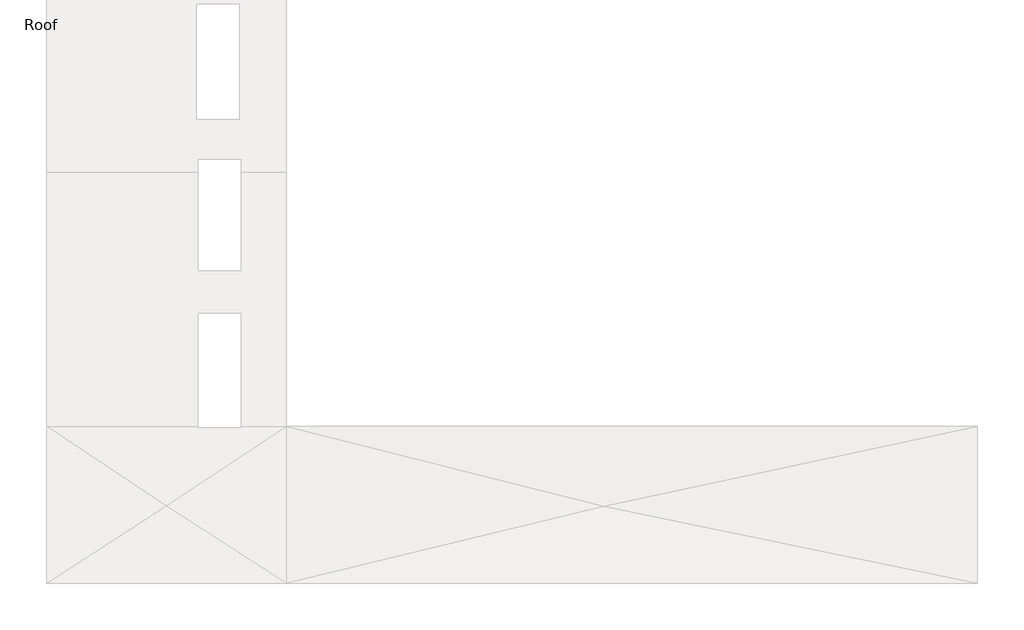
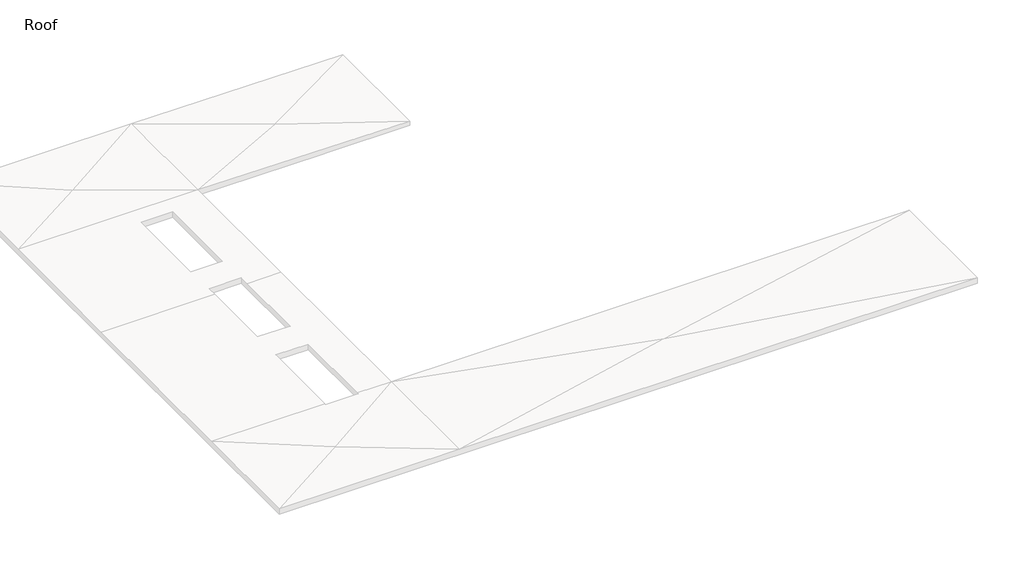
# One storey, part 4 of 7: 16 beams.
"""IFC4 building model written with IfcOpenShell, lengths in millimetres."""

from ifc_helpers import new_model, si_unit, point, frame, frame_2d, origin, place, context, project, spatial, polyline, circle_curve, trimmed, segment, composite_curve, outline, extrude, element, save
from ifc_brep_helpers import plane_surface, revolved_surface, advanced_brep

model = new_model("IFC4")

# Units and contexts
model_context = context("Model", 3, world=origin())
ifc_project = project(units=[si_unit("LENGTHUNIT", "METRE", prefix="MILLI")], contexts=[model_context])

# Site, building, storey
site = spatial("IfcSite", under=ifc_project)
building = spatial("IfcBuilding", under=site)
storey = spatial("IfcBuildingStorey", under=building, Name="Roof", Elevation=11400.0)

# Beams
placement = place(None, origin())
element("IfcBeam", 1, ObjectType="M_Concrete-Rectangular Beam : 400 x 800mm", at=placement, inside=storey, context=model_context, shape_type="AdvancedBrep", body=[
    advanced_brep(
    [(-9401.9994416, 8545.8609793, 10600.0), (-9401.9994416, 6932.0162606, 10600.0), (-9401.9994416, 6932.0162606, 11000.0), (-9401.9994416, 8545.8609793, 11000.0), (-9001.9994416, 6932.0162606, 10600.0), (-9098.921801, 8448.9386199, 10600.0), (-9001.9994416, 8448.9386199, 10600.0), (-9001.9994416, 7028.9386199, 10600.0), (-9001.9994416, 6932.0162606, 11000.0), (-9001.9994416, 8448.9386199, 11000.0), (-9001.9994416, 7028.9386199, 11000.0), (-9098.921801, 8448.9386199, 11000.0)],
    [
        (0, 1),
        (1, 2),
        (2, 3),
        (3, 0),
        (4, 1, circle_curve(frame((-9201.9994416, 6828.9386199, 10600.0), z_axis=(0.0, 0.0, 1.0), x_axis=(-1.0, 0.0, 0.0)), 225.0)),
        (0, 5, circle_curve(frame((-9201.9994416, 8648.9386199, 10600.0), z_axis=(0.0, 0.0, 1.0), x_axis=(1.0, 0.0, 0.0)), 225.0)),
        (5, 6),
        (6, 7),
        (7, 4),
        (8, 4),
        (6, 9),
        (9, 10),
        (10, 8),
        (8, 2, circle_curve(frame((-9201.9994416, 6828.9386199, 11000.0), z_axis=(0.0, 0.0, 1.0), x_axis=(-1.0, 0.0, 0.0)), 225.0)),
        (3, 11, circle_curve(frame((-9201.9994416, 8648.9386199, 11000.0), z_axis=(0.0, 0.0, 1.0), x_axis=(1.0, 0.0, 0.0)), 225.0)),
        (11, 5),
        (9, 11),
    ],
    [
        plane_surface(frame((-9401.9994416, 7066.6386199, 11000.0), z_axis=(-1.0, 0.0, 0.0), x_axis=(0.0, 0.0, -1.0))),
        plane_surface(frame((-9201.9994416, 7066.6386199, 10600.0), z_axis=(0.0, 0.0, -1.0), x_axis=(1.0, 0.0, 0.0))),
        plane_surface(frame((-9001.9994416, 7066.6386199, 11000.0), z_axis=(1.0, 0.0, 0.0), x_axis=(0.0, 0.0, 1.0))),
        revolved_surface(polyline([(-9426.9994416, 6828.9386199, 11000.0), (-9426.9994416, 6828.9386199, 10600.0)]), (-9201.9994416, 6828.9386199, 7600.0), (0.0, 0.0, 1.0)),
        revolved_surface(polyline([(-8976.9994416, 8648.9386199, 11000.0), (-8976.9994416, 8648.9386199, 10600.0)]), (-9201.9994416, 8648.9386199, 7600.0), (0.0, 0.0, 1.0)),
        plane_surface(frame((27511.8999097, 22114.0407562, 11000.0), z_axis=(0.0, 0.0, 1.0), x_axis=(0.0, -1.0, 0.0))),
        plane_surface(frame((-2124.4994416, 8448.9386199, 11400.0), z_axis=(0.0, 1.0, 0.0), x_axis=(-1.0, 0.0, 0.0))),
    ],
    [
        (0, [[1, 2, 3, 4]]),
        (1, [[5, -1, 6, 7, 8, 9]]),
        (2, [[10, -9, -8, 11, 12, 13]]),
        (3, [[-5, -10, 14, -2]]),
        (4, [[-4, 15, 16, -6]]),
        (5, [[-3, -14, -13, -12, 17, -15]]),
        (6, [[-7, -16, -17, -11]]),
    ],
),
])
element("IfcBeam", 2, ObjectType="M_Concrete-Rectangular Beam : 400 x 800mm", at=placement, inside=storey, context=model_context, shape_type="AdvancedBrep", body=[
    advanced_brep(
    [(-9401.9994416, 6725.8609793, 10600.0), (-9401.9994416, 632.8162606, 10600.0), (-9401.9994416, 632.8162606, 11000.0), (-9401.9994416, 6725.8609793, 11000.0), (-9098.921801, 6628.9386199, 10600.0), (-9001.9994416, 6628.9386199, 10600.0), (-9001.9994416, 729.7386199, 10600.0), (-9001.9994416, 632.8162606, 10600.0), (-9001.9994416, 6628.9386199, 11000.0), (-9001.9994416, 729.7386199, 11000.0), (-9001.9994416, 632.8162606, 11000.0), (-9098.921801, 6628.9386199, 11000.0)],
    [
        (0, 1),
        (1, 2),
        (2, 3),
        (3, 0),
        (0, 4, circle_curve(frame((-9201.9994416, 6828.9386199, 10600.0), z_axis=(0.0, 0.0, 1.0), x_axis=(-1.0, 0.0, 0.0)), 225.0)),
        (4, 5),
        (5, 6),
        (6, 7),
        (7, 1, circle_curve(frame((-9201.9994416, 529.7386199, 10600.0), z_axis=(0.0, 0.0, 1.0), x_axis=(-1.0, 0.0, 0.0)), 225.0)),
        (5, 8),
        (8, 9),
        (9, 10),
        (10, 7),
        (3, 11, circle_curve(frame((-9201.9994416, 6828.9386199, 11000.0), z_axis=(0.0, 0.0, 1.0), x_axis=(-1.0, 0.0, 0.0)), 225.0)),
        (11, 4),
        (11, 8),
        (10, 2, circle_curve(frame((-9201.9994416, 529.7386199, 11000.0), z_axis=(0.0, 0.0, 1.0), x_axis=(-1.0, 0.0, 0.0)), 225.0)),
    ],
    [
        plane_surface(frame((-9401.9994416, 767.4386199, 11000.0), z_axis=(-1.0, 0.0, 0.0), x_axis=(0.0, 0.0, -1.0))),
        plane_surface(frame((-9201.9994416, 767.4386199, 10600.0), z_axis=(0.0, 0.0, -1.0), x_axis=(1.0, 0.0, 0.0))),
        plane_surface(frame((-9001.9994416, 767.4386199, 11000.0), z_axis=(1.0, 0.0, 0.0), x_axis=(0.0, 0.0, 1.0))),
        revolved_surface(polyline([(-9426.9994416, 6828.9386199, 11000.0), (-9426.9994416, 6828.9386199, 10600.0)]), (-9201.9994416, 6828.9386199, 7600.0), (0.0, 0.0, 1.0)),
        plane_surface(frame((-8964.2994416, 6628.9386199, 10600.0), z_axis=(0.0, 1.0, 0.0), x_axis=(1.0, 0.0, 0.0))),
        revolved_surface(polyline([(-9426.9994416, 529.7386199, 11000.0), (-9426.9994416, 529.7386199, 10600.0)]), (-9201.9994416, 529.7386199, 7600.0), (0.0, 0.0, 1.0)),
        plane_surface(frame((27511.8999097, 22114.0407562, 11000.0), z_axis=(0.0, 0.0, 1.0), x_axis=(0.0, -1.0, 0.0))),
    ],
    [
        (0, [[1, 2, 3, 4]]),
        (1, [[5, 6, 7, 8, 9, -1]]),
        (2, [[-8, -7, 10, 11, 12, 13]]),
        (3, [[-5, -4, 14, 15]]),
        (4, [[-6, -15, 16, -10]]),
        (5, [[-9, -13, 17, -2]]),
        (6, [[-3, -17, -12, -11, -16, -14]]),
    ],
),
])
element("IfcBeam", 3, ObjectType="M_Concrete-Rectangular Beam : 400 x 800mm", at=placement, inside=storey, context=model_context, shape_type="AdvancedBrep", body=[
    advanced_brep(
    [(32254.0005584, -15422.9390207, 10600.0), (32254.0005584, -15519.8613801, 10600.0), (32254.0005584, -22435.0613801, 10600.0), (32254.0005584, -22531.9837394, 10600.0), (32254.0005584, -22531.9837394, 11000.0), (32254.0005584, -22435.0613801, 11000.0), (32254.0005584, -15519.8613801, 11000.0), (32254.0005584, -15422.9390207, 11000.0), (32654.0005584, -15422.9390207, 10600.0), (32654.0005584, -15519.8613801, 10600.0), (32654.0005584, -22435.0613801, 10600.0), (32654.0005584, -22531.9837394, 10600.0), (32654.0005584, -15422.9390207, 11000.0), (32654.0005584, -15519.8613801, 11000.0), (32654.0005584, -22435.0613801, 11000.0), (32654.0005584, -22531.9837394, 11000.0)],
    [
        (0, 1),
        (1, 2),
        (2, 3),
        (3, 4),
        (4, 5),
        (5, 6),
        (6, 7),
        (7, 0),
        (0, 8, circle_curve(frame((32454.0005584, -15319.8613801, 10600.0), z_axis=(0.0, 0.0, 1.0), x_axis=(-1.0, 0.0, 0.0)), 225.0)),
        (8, 9),
        (9, 10),
        (10, 11),
        (11, 3, circle_curve(frame((32454.0005584, -22635.0613801, 10600.0), z_axis=(0.0, 0.0, 1.0), x_axis=(-1.0, 0.0, 0.0)), 225.0)),
        (8, 12),
        (12, 13),
        (13, 14),
        (14, 15),
        (15, 11),
        (7, 12, circle_curve(frame((32454.0005584, -15319.8613801, 11000.0), z_axis=(0.0, 0.0, 1.0), x_axis=(-1.0, 0.0, 0.0)), 225.0)),
        (15, 4, circle_curve(frame((32454.0005584, -22635.0613801, 11000.0), z_axis=(0.0, 0.0, 1.0), x_axis=(-1.0, 0.0, 0.0)), 225.0)),
    ],
    [
        plane_surface(frame((32254.0005584, -22397.3613801, 11400.0), z_axis=(-1.0, 0.0, 0.0), x_axis=(0.0, 1.0, 0.0))),
        plane_surface(frame((32254.0005584, -22397.3613801, 10600.0), z_axis=(0.0, 0.0, -1.0), x_axis=(0.0, 1.0, 0.0))),
        plane_surface(frame((32654.0005584, -22397.3613801, 10600.0), z_axis=(1.0, 0.0, 0.0), x_axis=(0.0, 1.0, 0.0))),
        revolved_surface(polyline([(32229.0005584, -15319.8613801, 11000.0), (32229.0005584, -15319.8613801, 10600.0)]), (32454.0005584, -15319.8613801, 7600.0), (0.0, 0.0, 1.0)),
        revolved_surface(polyline([(32229.0005584, -22635.0613801, 11000.0), (32229.0005584, -22635.0613801, 10600.0)]), (32454.0005584, -22635.0613801, 7600.0), (0.0, 0.0, 1.0)),
        plane_surface(frame((27511.8999097, 22114.0407562, 11000.0), z_axis=(0.0, 0.0, 1.0), x_axis=(0.0, -1.0, 0.0))),
    ],
    [
        (0, [[1, 2, 3, 4, 5, 6, 7, 8]]),
        (1, [[9, 10, 11, 12, 13, -3, -2, -1]]),
        (2, [[-12, -11, -10, 14, 15, 16, 17, 18]]),
        (3, [[-9, -8, 19, -14]]),
        (4, [[-13, -18, 20, -4]]),
        (5, [[-7, -6, -5, -20, -17, -16, -15, -19]]),
    ],
),
])
element("IfcBeam", 4, ObjectType="M_Concrete-Rectangular Beam : 400 x 800mm", at=placement, inside=storey, context=model_context, shape_type="AdvancedBrep", body=[
    advanced_brep(
    [(38756.4005584, -15422.9390207, 10600.0), (38756.4005584, -15519.8613801, 10600.0), (38756.4005584, -22435.0613801, 10600.0), (38756.4005584, -22531.9837394, 10600.0), (38756.4005584, -22531.9837394, 11000.0), (38756.4005584, -22435.0613801, 11000.0), (38756.4005584, -15519.8613801, 11000.0), (38756.4005584, -15422.9390207, 11000.0), (39156.4005584, -15422.9390207, 10600.0), (39156.4005584, -15519.8613801, 10600.0), (39156.4005584, -22435.0613801, 10600.0), (39156.4005584, -22531.9837394, 10600.0), (39156.4005584, -15422.9390207, 11000.0), (39156.4005584, -15519.8613801, 11000.0), (39156.4005584, -22435.0613801, 11000.0), (39156.4005584, -22531.9837394, 11000.0)],
    [
        (0, 1),
        (1, 2),
        (2, 3),
        (3, 4),
        (4, 5),
        (5, 6),
        (6, 7),
        (7, 0),
        (0, 8, circle_curve(frame((38956.4005584, -15319.8613801, 10600.0), z_axis=(0.0, 0.0, 1.0), x_axis=(-1.0, 0.0, 0.0)), 225.0)),
        (8, 9),
        (9, 10),
        (10, 11),
        (11, 3, circle_curve(frame((38956.4005584, -22635.0613801, 10600.0), z_axis=(0.0, 0.0, 1.0), x_axis=(-1.0, 0.0, 0.0)), 225.0)),
        (8, 12),
        (12, 13),
        (13, 14),
        (14, 15),
        (15, 11),
        (7, 12, circle_curve(frame((38956.4005584, -15319.8613801, 11000.0), z_axis=(0.0, 0.0, 1.0), x_axis=(-1.0, 0.0, 0.0)), 225.0)),
        (15, 4, circle_curve(frame((38956.4005584, -22635.0613801, 11000.0), z_axis=(0.0, 0.0, 1.0), x_axis=(-1.0, 0.0, 0.0)), 225.0)),
    ],
    [
        plane_surface(frame((38756.4005584, -22397.3613801, 11400.0), z_axis=(-1.0, 0.0, 0.0), x_axis=(0.0, 1.0, 0.0))),
        plane_surface(frame((38756.4005584, -22397.3613801, 10600.0), z_axis=(0.0, 0.0, -1.0), x_axis=(0.0, 1.0, 0.0))),
        plane_surface(frame((39156.4005584, -22397.3613801, 10600.0), z_axis=(1.0, 0.0, 0.0), x_axis=(0.0, 1.0, 0.0))),
        revolved_surface(polyline([(38731.4005584, -15319.8613801, 11000.0), (38731.4005584, -15319.8613801, 10600.0)]), (38956.4005584, -15319.8613801, 7600.0), (0.0, 0.0, 1.0)),
        revolved_surface(polyline([(38731.4005584, -22635.0613801, 11000.0), (38731.4005584, -22635.0613801, 10600.0)]), (38956.4005584, -22635.0613801, 7600.0), (0.0, 0.0, 1.0)),
        plane_surface(frame((27511.8999097, 22114.0407562, 11000.0), z_axis=(0.0, 0.0, 1.0), x_axis=(0.0, -1.0, 0.0))),
    ],
    [
        (0, [[1, 2, 3, 4, 5, 6, 7, 8]]),
        (1, [[9, 10, 11, 12, 13, -3, -2, -1]]),
        (2, [[-12, -11, -10, 14, 15, 16, 17, 18]]),
        (3, [[-9, -8, 19, -14]]),
        (4, [[-13, -18, 20, -4]]),
        (5, [[-7, -6, -5, -20, -17, -16, -15, -19]]),
    ],
),
])
element("IfcBeam", 5, ObjectType="M_Concrete-Rectangular Beam : 400 x 800mm", at=placement, inside=storey, context=model_context, shape_type="AdvancedBrep", body=[
    advanced_brep(
    [(45258.8005584, -15422.9390207, 10600.0), (45258.8005584, -15519.8613801, 10600.0), (45258.8005584, -22435.0613801, 10600.0), (45258.8005584, -22531.9837394, 10600.0), (45258.8005584, -22531.9837394, 11000.0), (45258.8005584, -22435.0613801, 11000.0), (45258.8005584, -15519.8613801, 11000.0), (45258.8005584, -15422.9390207, 11000.0), (45658.8005584, -15422.9390207, 10600.0), (45658.8005584, -15519.8613801, 10600.0), (45658.8005584, -22435.0613801, 10600.0), (45658.8005584, -22531.9837394, 10600.0), (45658.8005584, -15422.9390207, 11000.0), (45658.8005584, -15519.8613801, 11000.0), (45658.8005584, -22435.0613801, 11000.0), (45658.8005584, -22531.9837394, 11000.0)],
    [
        (0, 1),
        (1, 2),
        (2, 3),
        (3, 4),
        (4, 5),
        (5, 6),
        (6, 7),
        (7, 0),
        (0, 8, circle_curve(frame((45458.8005584, -15319.8613801, 10600.0), z_axis=(0.0, 0.0, 1.0), x_axis=(-1.0, 0.0, 0.0)), 225.0)),
        (8, 9),
        (9, 10),
        (10, 11),
        (11, 3, circle_curve(frame((45458.8005584, -22635.0613801, 10600.0), z_axis=(0.0, 0.0, 1.0), x_axis=(-1.0, 0.0, 0.0)), 225.0)),
        (8, 12),
        (12, 13),
        (13, 14),
        (14, 15),
        (15, 11),
        (7, 12, circle_curve(frame((45458.8005584, -15319.8613801, 11000.0), z_axis=(0.0, 0.0, 1.0), x_axis=(-1.0, 0.0, 0.0)), 225.0)),
        (15, 4, circle_curve(frame((45458.8005584, -22635.0613801, 11000.0), z_axis=(0.0, 0.0, 1.0), x_axis=(-1.0, 0.0, 0.0)), 225.0)),
    ],
    [
        plane_surface(frame((45258.8005584, -22397.3613801, 11400.0), z_axis=(-1.0, 0.0, 0.0), x_axis=(0.0, 1.0, 0.0))),
        plane_surface(frame((45258.8005584, -22397.3613801, 10600.0), z_axis=(0.0, 0.0, -1.0), x_axis=(0.0, 1.0, 0.0))),
        plane_surface(frame((45658.8005584, -22397.3613801, 10600.0), z_axis=(1.0, 0.0, 0.0), x_axis=(0.0, 1.0, 0.0))),
        revolved_surface(polyline([(45233.8005584, -15319.8613801, 11000.0), (45233.8005584, -15319.8613801, 10600.0)]), (45458.8005584, -15319.8613801, 7600.0), (0.0, 0.0, 1.0)),
        revolved_surface(polyline([(45233.8005584, -22635.0613801, 11000.0), (45233.8005584, -22635.0613801, 10600.0)]), (45458.8005584, -22635.0613801, 7600.0), (0.0, 0.0, 1.0)),
        plane_surface(frame((27511.8999097, 22114.0407562, 11000.0), z_axis=(0.0, 0.0, 1.0), x_axis=(0.0, -1.0, 0.0))),
    ],
    [
        (0, [[1, 2, 3, 4, 5, 6, 7, 8]]),
        (1, [[9, 10, 11, 12, 13, -3, -2, -1]]),
        (2, [[-12, -11, -10, 14, 15, 16, 17, 18]]),
        (3, [[-9, -8, 19, -14]]),
        (4, [[-13, -18, 20, -4]]),
        (5, [[-7, -6, -5, -20, -17, -16, -15, -19]]),
    ],
),
])
element("IfcBeam", 6, ObjectType="M_Concrete-Rectangular Beam : 400 x 800mm", at=placement, inside=storey, context=model_context, shape_type="AdvancedBrep", body=[
    advanced_brep(
    [(554.8005584, 729.7386199, 10600.0), (-1586.7994416, 729.7386199, 10600.0), (-1586.7994416, 729.7386199, 11000.0), (554.8005584, 729.7386199, 11000.0), (554.8005584, 632.8162606, 10600.0), (529.8005584, 529.7386199, 10600.0), (651.7229178, 329.7386199, 10600.0), (554.8005584, 329.7386199, 10600.0), (-1586.7994416, 329.7386199, 10600.0), (651.7229178, 329.7386199, 11000.0), (554.8005584, 329.7386199, 11000.0), (-1586.7994416, 329.7386199, 11000.0), (554.8005584, 632.8162606, 11000.0), (529.8005584, 529.7386199, 11000.0)],
    [
        (0, 1),
        (1, 2),
        (2, 3),
        (3, 0),
        (0, 4),
        (4, 5, circle_curve(frame((754.8005584, 529.7386199, 10600.0), z_axis=(0.0, 0.0, 1.0), x_axis=(-1.0, 0.0, 0.0)), 225.0)),
        (5, 6, circle_curve(frame((754.8005584, 529.7386199, 10600.0), z_axis=(0.0, 0.0, 1.0), x_axis=(-1.0, 0.0, 0.0)), 225.0)),
        (6, 7),
        (7, 8),
        (8, 1),
        (6, 9),
        (9, 10),
        (10, 11),
        (11, 8),
        (3, 12),
        (12, 4),
        (5, 13),
        (13, 9, circle_curve(frame((754.8005584, 529.7386199, 11000.0), z_axis=(0.0, 0.0, 1.0), x_axis=(-1.0, 0.0, 0.0)), 225.0)),
        (12, 13, circle_curve(frame((754.8005584, 529.7386199, 11000.0), z_axis=(0.0, 0.0, 1.0), x_axis=(-1.0, 0.0, 0.0)), 225.0)),
        (11, 2),
    ],
    [
        plane_surface(frame((-1649.0994416, 729.7386199, 11000.0), z_axis=(0.0, 1.0, 0.0), x_axis=(0.0, 0.0, -1.0))),
        plane_surface(frame((-1649.0994416, 529.7386199, 10600.0), z_axis=(0.0, 0.0, -1.0), x_axis=(0.0, -1.0, 0.0))),
        plane_surface(frame((-1649.0994416, 329.7386199, 11000.0), z_axis=(0.0, -1.0, 0.0), x_axis=(0.0, 0.0, 1.0))),
        plane_surface(frame((554.8005584, 767.4386199, 11000.0), z_axis=(1.0, 0.0, 0.0), x_axis=(0.0, 0.0, -1.0))),
        revolved_surface(polyline([(529.8005584, 529.7386199, 11000.0), (529.8005584, 529.7386199, 10600.0)]), (754.8005584, 529.7386199, 7600.0), (0.0, 0.0, 1.0)),
        plane_surface(frame((-1586.7994416, 767.4386199, 10950.0), z_axis=(-1.0, 0.0, 0.0), x_axis=(0.0, 0.0, 1.0))),
        plane_surface(frame((27511.8999097, 22114.0407562, 11000.0), z_axis=(0.0, 0.0, 1.0), x_axis=(0.0, -1.0, 0.0))),
    ],
    [
        (0, [[1, 2, 3, 4]]),
        (1, [[5, 6, 7, 8, 9, 10, -1]]),
        (2, [[-9, -8, 11, 12, 13, 14]]),
        (3, [[-5, -4, 15, 16]]),
        (4, [[-7, 17, 18, -11]]),
        (4, [[-6, -16, 19, -17]]),
        (5, [[-10, -14, 20, -2]]),
        (6, [[-3, -20, -13, -12, -18, -19, -15]]),
    ],
),
])
element("IfcBeam", 7, ObjectType="M_Concrete-Rectangular Beam : 400 x 800mm", at=placement, inside=storey, context=model_context, shape_type="AdvancedBrep", body=[
    advanced_brep(
    [(-2186.7994416, 729.7386199, 10600.0), (-9001.9994416, 729.7386199, 10600.0), (-9001.9994416, 729.7386199, 11000.0), (-2186.7994416, 729.7386199, 11000.0), (-9001.9994416, 632.8162606, 10600.0), (-2186.7994416, 329.7386199, 10600.0), (-9001.9994416, 329.7386199, 10600.0), (-9098.921801, 329.7386199, 10600.0), (-8976.9994416, 529.7386199, 10600.0), (-2186.7994416, 329.7386199, 11000.0), (-9001.9994416, 329.7386199, 11000.0), (-9098.921801, 329.7386199, 11000.0), (-9001.9994416, 632.8162606, 11000.0), (-8976.9994416, 529.7386199, 11000.0)],
    [
        (0, 1),
        (1, 2),
        (2, 3),
        (3, 0),
        (4, 1),
        (0, 5),
        (5, 6),
        (6, 7),
        (7, 8, circle_curve(frame((-9201.9994416, 529.7386199, 10600.0), z_axis=(0.0, 0.0, 1.0), x_axis=(-1.0, 0.0, 0.0)), 225.0)),
        (8, 4, circle_curve(frame((-9201.9994416, 529.7386199, 10600.0), z_axis=(0.0, 0.0, 1.0), x_axis=(-1.0, 0.0, 0.0)), 225.0)),
        (5, 9),
        (9, 10),
        (10, 11),
        (11, 7),
        (4, 12),
        (12, 2),
        (11, 13, circle_curve(frame((-9201.9994416, 529.7386199, 11000.0), z_axis=(0.0, 0.0, 1.0), x_axis=(-1.0, 0.0, 0.0)), 225.0)),
        (13, 8),
        (13, 12, circle_curve(frame((-9201.9994416, 529.7386199, 11000.0), z_axis=(0.0, 0.0, 1.0), x_axis=(-1.0, 0.0, 0.0)), 225.0)),
        (3, 9),
    ],
    [
        plane_surface(frame((-8964.2994416, 729.7386199, 11400.0), z_axis=(0.0, 1.0, 0.0), x_axis=(1.0, 0.0, 0.0))),
        plane_surface(frame((-8964.2994416, 729.7386199, 10600.0), z_axis=(0.0, 0.0, -1.0), x_axis=(1.0, 0.0, 0.0))),
        plane_surface(frame((-8964.2994416, 329.7386199, 10600.0), z_axis=(0.0, -1.0, 0.0), x_axis=(1.0, 0.0, 0.0))),
        plane_surface(frame((-9001.9994416, 767.4386199, 11000.0), z_axis=(-1.0, 0.0, 0.0), x_axis=(0.0, 0.0, 1.0))),
        revolved_surface(polyline([(-9426.9994416, 529.7386199, 11000.0), (-9426.9994416, 529.7386199, 10600.0)]), (-9201.9994416, 529.7386199, 7600.0), (0.0, 0.0, 1.0)),
        plane_surface(frame((-2186.7994416, 753.6677035, 10500.0), z_axis=(1.0, 0.0, 0.0), x_axis=(0.0, -1.0, 0.0))),
        plane_surface(frame((27511.8999097, 22114.0407562, 11000.0), z_axis=(0.0, 0.0, 1.0), x_axis=(0.0, -1.0, 0.0))),
    ],
    [
        (0, [[1, 2, 3, 4]]),
        (1, [[5, -1, 6, 7, 8, 9, 10]]),
        (2, [[-8, -7, 11, 12, 13, 14]]),
        (3, [[-5, 15, 16, -2]]),
        (4, [[-9, -14, 17, 18]]),
        (4, [[-10, -18, 19, -15]]),
        (5, [[-6, -4, 20, -11]]),
        (6, [[-3, -16, -19, -17, -13, -12, -20]]),
    ],
),
])
element("IfcBeam", 8, ObjectType="M_Concrete-Rectangular Beam : 400 x 800mm", at=placement, inside=storey, context=model_context, shape_type="AdvancedBrep", body=[
    advanced_brep(
    [(45561.878199, -15119.8613801, 10600.0), (45561.878199, -15119.8613801, 11000.0), (45658.8005584, -15119.8613801, 11000.0), (53429.578114, -15119.8613801, 11000.0), (53429.578114, -15119.8613801, 10600.0), (45658.8005584, -15119.8613801, 10600.0), (45658.8005584, -15519.8613801, 10600.0), (45658.8005584, -15422.9390207, 10600.0), (45683.8005584, -15319.8613801, 10600.0), (53429.578114, -15519.8613801, 10600.0), (45658.8005584, -15519.8613801, 11000.0), (53429.578114, -15519.8613801, 11000.0), (45658.8005584, -15422.9390207, 11000.0), (45683.8005584, -15319.8613801, 11000.0)],
    [
        (0, 1),
        (1, 2),
        (2, 3),
        (3, 4),
        (4, 5),
        (5, 0),
        (6, 7),
        (7, 8, circle_curve(frame((45458.8005584, -15319.8613801, 10600.0), z_axis=(0.0, 0.0, 1.0), x_axis=(-1.0, 0.0, 0.0)), 225.0)),
        (8, 0, circle_curve(frame((45458.8005584, -15319.8613801, 10600.0), z_axis=(0.0, 0.0, 1.0), x_axis=(-1.0, 0.0, 0.0)), 225.0)),
        (4, 9),
        (9, 6),
        (10, 6),
        (9, 11),
        (11, 10),
        (10, 12),
        (12, 7),
        (12, 13, circle_curve(frame((45458.8005584, -15319.8613801, 11000.0), z_axis=(0.0, 0.0, 1.0), x_axis=(-1.0, 0.0, 0.0)), 225.0)),
        (13, 8),
        (13, 1, circle_curve(frame((45458.8005584, -15319.8613801, 11000.0), z_axis=(0.0, 0.0, 1.0), x_axis=(-1.0, 0.0, 0.0)), 225.0)),
        (11, 3),
    ],
    [
        plane_surface(frame((45696.5005584, -15119.8613801, 11000.0), z_axis=(0.0, 1.0, 0.0), x_axis=(0.0, 0.0, -1.0))),
        plane_surface(frame((45696.5005584, -15319.8613801, 10600.0), z_axis=(0.0, 0.0, -1.0), x_axis=(0.0, -1.0, 0.0))),
        plane_surface(frame((45696.5005584, -15519.8613801, 11000.0), z_axis=(0.0, -1.0, 0.0), x_axis=(0.0, 0.0, 1.0))),
        plane_surface(frame((45658.8005584, -22397.3613801, 10600.0), z_axis=(-1.0, 0.0, 0.0), x_axis=(0.0, 1.0, 0.0))),
        revolved_surface(polyline([(45233.8005584, -15319.8613801, 11000.0), (45233.8005584, -15319.8613801, 10600.0)]), (45458.8005584, -15319.8613801, 7600.0), (0.0, 0.0, 1.0)),
        plane_surface(frame((27511.8999097, 22114.0407562, 11000.0), z_axis=(0.0, 0.0, 1.0), x_axis=(0.0, -1.0, 0.0))),
        plane_surface(frame((53429.578114, -14931.1613815, 0.0), z_axis=(1.0, 0.0, 0.0), x_axis=(0.0, -1.0, 0.0))),
    ],
    [
        (0, [[1, 2, 3, 4, 5, 6]]),
        (1, [[7, 8, 9, -6, -5, 10, 11]]),
        (2, [[12, -11, 13, 14]]),
        (3, [[-7, -12, 15, 16]]),
        (4, [[-8, -16, 17, 18]]),
        (4, [[-9, -18, 19, -1]]),
        (5, [[-15, -14, 20, -3, -2, -19, -17]]),
        (6, [[-4, -20, -13, -10]]),
    ],
),
])
element("IfcBeam", 9, ObjectType="M_Concrete-Rectangular Beam : 400 x 800mm", at=placement, inside=storey, context=model_context, shape_type="AdvancedBrep", body=[
    advanced_brep(
    [(45355.7229178, -15119.8613801, 10600.0), (45258.8005584, -15119.8613801, 10600.0), (39156.4005584, -15119.8613801, 10600.0), (39059.478199, -15119.8613801, 10600.0), (39059.478199, -15119.8613801, 11000.0), (39156.4005584, -15119.8613801, 11000.0), (45258.8005584, -15119.8613801, 11000.0), (45355.7229178, -15119.8613801, 11000.0), (39156.4005584, -15519.8613801, 10600.0), (39156.4005584, -15422.9390207, 10600.0), (39181.4005584, -15319.8613801, 10600.0), (45233.8005584, -15319.8613801, 10600.0), (45258.8005584, -15422.9390207, 10600.0), (45258.8005584, -15519.8613801, 10600.0), (45258.8005584, -15519.8613801, 11000.0), (39156.4005584, -15519.8613801, 11000.0), (39156.4005584, -15422.9390207, 11000.0), (39181.4005584, -15319.8613801, 11000.0), (45258.8005584, -15422.9390207, 11000.0), (45233.8005584, -15319.8613801, 11000.0)],
    [
        (0, 1),
        (1, 2),
        (2, 3),
        (3, 4),
        (4, 5),
        (5, 6),
        (6, 7),
        (7, 0),
        (8, 9),
        (9, 10, circle_curve(frame((38956.4005584, -15319.8613801, 10600.0), z_axis=(0.0, 0.0, 1.0), x_axis=(-1.0, 0.0, 0.0)), 225.0)),
        (10, 3, circle_curve(frame((38956.4005584, -15319.8613801, 10600.0), z_axis=(0.0, 0.0, 1.0), x_axis=(-1.0, 0.0, 0.0)), 225.0)),
        (0, 11, circle_curve(frame((45458.8005584, -15319.8613801, 10600.0), z_axis=(0.0, 0.0, 1.0), x_axis=(-1.0, 0.0, 0.0)), 225.0)),
        (11, 12, circle_curve(frame((45458.8005584, -15319.8613801, 10600.0), z_axis=(0.0, 0.0, 1.0), x_axis=(-1.0, 0.0, 0.0)), 225.0)),
        (12, 13),
        (13, 8),
        (13, 14),
        (14, 15),
        (15, 8),
        (15, 16),
        (16, 9),
        (16, 17, circle_curve(frame((38956.4005584, -15319.8613801, 11000.0), z_axis=(0.0, 0.0, 1.0), x_axis=(-1.0, 0.0, 0.0)), 225.0)),
        (17, 10),
        (17, 4, circle_curve(frame((38956.4005584, -15319.8613801, 11000.0), z_axis=(0.0, 0.0, 1.0), x_axis=(-1.0, 0.0, 0.0)), 225.0)),
        (12, 18),
        (18, 14),
        (11, 19),
        (19, 18, circle_curve(frame((45458.8005584, -15319.8613801, 11000.0), z_axis=(0.0, 0.0, 1.0), x_axis=(-1.0, 0.0, 0.0)), 225.0)),
        (7, 19, circle_curve(frame((45458.8005584, -15319.8613801, 11000.0), z_axis=(0.0, 0.0, 1.0), x_axis=(-1.0, 0.0, 0.0)), 225.0)),
    ],
    [
        plane_surface(frame((39194.1005584, -15119.8613801, 11000.0), z_axis=(0.0, 1.0, 0.0), x_axis=(0.0, 0.0, -1.0))),
        plane_surface(frame((39194.1005584, -15319.8613801, 10600.0), z_axis=(0.0, 0.0, -1.0), x_axis=(0.0, -1.0, 0.0))),
        plane_surface(frame((39194.1005584, -15519.8613801, 11000.0), z_axis=(0.0, -1.0, 0.0), x_axis=(0.0, 0.0, 1.0))),
        plane_surface(frame((39156.4005584, -22397.3613801, 10600.0), z_axis=(-1.0, 0.0, 0.0), x_axis=(0.0, 1.0, 0.0))),
        revolved_surface(polyline([(38731.4005584, -15319.8613801, 11000.0), (38731.4005584, -15319.8613801, 10600.0)]), (38956.4005584, -15319.8613801, 7600.0), (0.0, 0.0, 1.0)),
        plane_surface(frame((45258.8005584, -22397.3613801, 11400.0), z_axis=(1.0, 0.0, 0.0), x_axis=(0.0, 1.0, 0.0))),
        revolved_surface(polyline([(45233.8005584, -15319.8613801, 11000.0), (45233.8005584, -15319.8613801, 10600.0)]), (45458.8005584, -15319.8613801, 7600.0), (0.0, 0.0, 1.0)),
        plane_surface(frame((27511.8999097, 22114.0407562, 11000.0), z_axis=(0.0, 0.0, 1.0), x_axis=(0.0, -1.0, 0.0))),
    ],
    [
        (0, [[1, 2, 3, 4, 5, 6, 7, 8]]),
        (1, [[9, 10, 11, -3, -2, -1, 12, 13, 14, 15]]),
        (2, [[-15, 16, 17, 18]]),
        (3, [[-9, -18, 19, 20]]),
        (4, [[-10, -20, 21, 22]]),
        (4, [[-11, -22, 23, -4]]),
        (5, [[-14, 24, 25, -16]]),
        (6, [[-13, 26, 27, -24]]),
        (6, [[-12, -8, 28, -26]]),
        (7, [[-7, -6, -5, -23, -21, -19, -17, -25, -27, -28]]),
    ],
),
])
element("IfcBeam", 10, ObjectType="M_Concrete-Rectangular Beam : 400 x 800mm", at=placement, inside=storey, context=model_context, shape_type="AdvancedBrep", body=[
    advanced_brep(
    [(38853.3229178, -15119.8613801, 10600.0), (38756.4005584, -15119.8613801, 10600.0), (32654.0005584, -15119.8613801, 10600.0), (32557.078199, -15119.8613801, 10600.0), (32557.078199, -15119.8613801, 11000.0), (32654.0005584, -15119.8613801, 11000.0), (38756.4005584, -15119.8613801, 11000.0), (38853.3229178, -15119.8613801, 11000.0), (32654.0005584, -15519.8613801, 10600.0), (32654.0005584, -15422.9390207, 10600.0), (32679.0005584, -15319.8613801, 10600.0), (38731.4005584, -15319.8613801, 10600.0), (38756.4005584, -15422.9390207, 10600.0), (38756.4005584, -15519.8613801, 10600.0), (38756.4005584, -15519.8613801, 11000.0), (32654.0005584, -15519.8613801, 11000.0), (32654.0005584, -15422.9390207, 11000.0), (32679.0005584, -15319.8613801, 11000.0), (38756.4005584, -15422.9390207, 11000.0), (38731.4005584, -15319.8613801, 11000.0)],
    [
        (0, 1),
        (1, 2),
        (2, 3),
        (3, 4),
        (4, 5),
        (5, 6),
        (6, 7),
        (7, 0),
        (8, 9),
        (9, 10, circle_curve(frame((32454.0005584, -15319.8613801, 10600.0), z_axis=(0.0, 0.0, 1.0), x_axis=(-1.0, 0.0, 0.0)), 225.0)),
        (10, 3, circle_curve(frame((32454.0005584, -15319.8613801, 10600.0), z_axis=(0.0, 0.0, 1.0), x_axis=(-1.0, 0.0, 0.0)), 225.0)),
        (0, 11, circle_curve(frame((38956.4005584, -15319.8613801, 10600.0), z_axis=(0.0, 0.0, 1.0), x_axis=(-1.0, 0.0, 0.0)), 225.0)),
        (11, 12, circle_curve(frame((38956.4005584, -15319.8613801, 10600.0), z_axis=(0.0, 0.0, 1.0), x_axis=(-1.0, 0.0, 0.0)), 225.0)),
        (12, 13),
        (13, 8),
        (13, 14),
        (14, 15),
        (15, 8),
        (15, 16),
        (16, 9),
        (16, 17, circle_curve(frame((32454.0005584, -15319.8613801, 11000.0), z_axis=(0.0, 0.0, 1.0), x_axis=(-1.0, 0.0, 0.0)), 225.0)),
        (17, 10),
        (17, 4, circle_curve(frame((32454.0005584, -15319.8613801, 11000.0), z_axis=(0.0, 0.0, 1.0), x_axis=(-1.0, 0.0, 0.0)), 225.0)),
        (12, 18),
        (18, 14),
        (11, 19),
        (19, 18, circle_curve(frame((38956.4005584, -15319.8613801, 11000.0), z_axis=(0.0, 0.0, 1.0), x_axis=(-1.0, 0.0, 0.0)), 225.0)),
        (7, 19, circle_curve(frame((38956.4005584, -15319.8613801, 11000.0), z_axis=(0.0, 0.0, 1.0), x_axis=(-1.0, 0.0, 0.0)), 225.0)),
    ],
    [
        plane_surface(frame((32691.7005584, -15119.8613801, 11000.0), z_axis=(0.0, 1.0, 0.0), x_axis=(0.0, 0.0, -1.0))),
        plane_surface(frame((32691.7005584, -15319.8613801, 10600.0), z_axis=(0.0, 0.0, -1.0), x_axis=(0.0, -1.0, 0.0))),
        plane_surface(frame((32691.7005584, -15519.8613801, 11000.0), z_axis=(0.0, -1.0, 0.0), x_axis=(0.0, 0.0, 1.0))),
        plane_surface(frame((32654.0005584, -22397.3613801, 10600.0), z_axis=(-1.0, 0.0, 0.0), x_axis=(0.0, 1.0, 0.0))),
        revolved_surface(polyline([(32229.0005584, -15319.8613801, 11000.0), (32229.0005584, -15319.8613801, 10600.0)]), (32454.0005584, -15319.8613801, 7600.0), (0.0, 0.0, 1.0)),
        plane_surface(frame((38756.4005584, -22397.3613801, 11400.0), z_axis=(1.0, 0.0, 0.0), x_axis=(0.0, 1.0, 0.0))),
        revolved_surface(polyline([(38731.4005584, -15319.8613801, 11000.0), (38731.4005584, -15319.8613801, 10600.0)]), (38956.4005584, -15319.8613801, 7600.0), (0.0, 0.0, 1.0)),
        plane_surface(frame((27511.8999097, 22114.0407562, 11000.0), z_axis=(0.0, 0.0, 1.0), x_axis=(0.0, -1.0, 0.0))),
    ],
    [
        (0, [[1, 2, 3, 4, 5, 6, 7, 8]]),
        (1, [[9, 10, 11, -3, -2, -1, 12, 13, 14, 15]]),
        (2, [[-15, 16, 17, 18]]),
        (3, [[-9, -18, 19, 20]]),
        (4, [[-10, -20, 21, 22]]),
        (4, [[-11, -22, 23, -4]]),
        (5, [[-14, 24, 25, -16]]),
        (6, [[-13, 26, 27, -24]]),
        (6, [[-12, -8, 28, -26]]),
        (7, [[-7, -6, -5, -23, -21, -19, -17, -25, -27, -28]]),
    ],
),
])
element("IfcBeam", 11, ObjectType="M_Concrete-Rectangular Beam : 400 x 800mm", at=placement, inside=storey, context=model_context, shape_type="SweptSolid", body=[
    extrude(outline(composite_curve([segment(polyline([(45658.8005584, -22531.9837394), (45658.8005584, -22435.0613801), (53429.578114, -22435.0613801), (53429.578114, -22835.0613801), (45561.878199, -22835.0613801)]), True, "CONTINUOUS"), segment(trimmed(circle_curve(frame_2d((45458.8005584, -22635.0613801)), 225.0), [point((45561.878199, -22835.0613801))], [point((45683.8005584, -22635.0613801))], True, "CARTESIAN"), True, "CONTINUOUS"), segment(trimmed(circle_curve(frame_2d((45458.8005584, -22635.0613801)), 225.0), [point((45683.8005584, -22635.0613801))], [point((45658.8005584, -22531.9837394))], True, "CARTESIAN"), True, "CONTINUOUS")], self_intersect=False)), frame((0.0, 0.0, 10600.0), z_axis=(0.0, 0.0, 1.0), x_axis=(1.0, 0.0, 0.0)), (0.0, 0.0, 1.0), 400.0),
])
element("IfcBeam", 12, ObjectType="M_Concrete-Rectangular Beam : 400 x 800mm", at=placement, inside=storey, context=model_context, shape_type="SweptSolid", body=[
    extrude(outline(composite_curve([segment(polyline([(39156.4005584, -22531.9837394), (39156.4005584, -22435.0613801), (45258.8005584, -22435.0613801), (45258.8005584, -22531.9837394)]), True, "CONTINUOUS"), segment(trimmed(circle_curve(frame_2d((45458.8005584, -22635.0613801)), 225.0), [point((45258.8005584, -22531.9837394))], [point((45233.8005584, -22635.0613801))], True, "CARTESIAN"), True, "CONTINUOUS"), segment(trimmed(circle_curve(frame_2d((45458.8005584, -22635.0613801)), 225.0), [point((45233.8005584, -22635.0613801))], [point((45355.7229178, -22835.0613801))], True, "CARTESIAN"), True, "CONTINUOUS"), segment(polyline([(45355.7229178, -22835.0613801), (39059.478199, -22835.0613801)]), True, "CONTINUOUS"), segment(trimmed(circle_curve(frame_2d((38956.4005584, -22635.0613801)), 225.0), [point((39059.478199, -22835.0613801))], [point((39181.4005584, -22635.0613801))], True, "CARTESIAN"), True, "CONTINUOUS"), segment(trimmed(circle_curve(frame_2d((38956.4005584, -22635.0613801)), 225.0), [point((39181.4005584, -22635.0613801))], [point((39156.4005584, -22531.9837394))], True, "CARTESIAN"), True, "CONTINUOUS")], self_intersect=False)), frame((0.0, 0.0, 10600.0), z_axis=(0.0, 0.0, 1.0), x_axis=(1.0, 0.0, 0.0)), (0.0, 0.0, 1.0), 400.0),
])
element("IfcBeam", 13, ObjectType="M_Concrete-Rectangular Beam : 400 x 800mm", at=placement, inside=storey, context=model_context, shape_type="SweptSolid", body=[
    extrude(outline(composite_curve([segment(polyline([(32254.0005584, -12296.3611817), (32654.0005584, -12296.3611817), (32654.0005584, -15119.8613801), (32557.078199, -15119.8613801)]), True, "CONTINUOUS"), segment(trimmed(circle_curve(frame_2d((32454.0005584, -15319.8613801)), 225.0), [point((32557.078199, -15119.8613801))], [point((32350.9229178, -15119.8613801))], True, "CARTESIAN"), True, "CONTINUOUS"), segment(polyline([(32350.9229178, -15119.8613801), (32254.0005584, -15119.8613801), (32254.0005584, -12296.3611817)]), True, "CONTINUOUS")], self_intersect=False)), frame((0.0, 0.0, 10600.0), z_axis=(0.0, 0.0, 1.0), x_axis=(1.0, 0.0, 0.0)), (0.0, 0.0, 1.0), 400.0),
])
element("IfcBeam", 14, ObjectType="M_Concrete-Rectangular Beam : 400 x 800mm", at=placement, inside=storey, context=model_context, shape_type="SweptSolid", body=[
    extrude(outline(composite_curve([segment(polyline([(38756.4005584, -12296.3611817), (39156.4005584, -12296.3611817), (39156.4005584, -15119.8613801), (39059.478199, -15119.8613801)]), True, "CONTINUOUS"), segment(trimmed(circle_curve(frame_2d((38956.4005584, -15319.8613801)), 225.0), [point((39059.478199, -15119.8613801))], [point((38853.3229178, -15119.8613801))], True, "CARTESIAN"), True, "CONTINUOUS"), segment(polyline([(38853.3229178, -15119.8613801), (38756.4005584, -15119.8613801), (38756.4005584, -12296.3611817)]), True, "CONTINUOUS")], self_intersect=False)), frame((0.0, 0.0, 10600.0), z_axis=(0.0, 0.0, 1.0), x_axis=(1.0, 0.0, 0.0)), (0.0, 0.0, 1.0), 400.0),
])
element("IfcBeam", 15, ObjectType="M_Concrete-Rectangular Beam : 400 x 800mm", at=placement, inside=storey, context=model_context, shape_type="SweptSolid", body=[
    extrude(outline(composite_curve([segment(polyline([(45258.8005584, -12296.3611817), (45658.8005584, -12296.3611817), (45658.8005584, -15119.8613801), (45561.878199, -15119.8613801)]), True, "CONTINUOUS"), segment(trimmed(circle_curve(frame_2d((45458.8005584, -15319.8613801)), 225.0), [point((45561.878199, -15119.8613801))], [point((45355.7229178, -15119.8613801))], True, "CARTESIAN"), True, "CONTINUOUS"), segment(polyline([(45355.7229178, -15119.8613801), (45258.8005584, -15119.8613801), (45258.8005584, -12296.3611817)]), True, "CONTINUOUS")], self_intersect=False)), frame((0.0, 0.0, 10600.0), z_axis=(0.0, 0.0, 1.0), x_axis=(1.0, 0.0, 0.0)), (0.0, 0.0, 1.0), 400.0),
])
element("IfcBeam", 16, ObjectType="M_Concrete-Rectangular Beam : 600 x 900", at=placement, inside=storey, context=model_context, shape_type="AdvancedBrep", body=[
    advanced_brep(
    [(-2186.7994416, 6628.9386199, 10500.0), (-2186.7994416, 329.7386199, 10500.0), (-2186.7994416, 329.7386199, 10600.0), (-2186.7994416, 329.7386199, 11000.0), (-2186.7994416, 729.7386199, 11000.0), (-2186.7994416, 6628.9386199, 11000.0), (-1989.8770822, 329.7386199, 10500.0), (-1989.8770822, 6628.9386199, 10500.0), (-1783.721801, 6628.9386199, 10500.0), (-1586.7994416, 6628.9386199, 10500.0), (-1586.7994416, 329.7386199, 10500.0), (-1783.721801, 329.7386199, 10500.0), (-1661.7994416, 529.7386199, 10500.0), (-2111.7994416, 529.7386199, 10500.0), (-1586.7994416, 6628.9386199, 11000.0), (-1586.7994416, 729.7386199, 11000.0), (-1586.7994416, 329.7386199, 11000.0), (-1586.7994416, 329.7386199, 10600.0), (-1783.721801, 329.7386199, 11000.0), (-1989.8770822, 6628.9386199, 11000.0), (-1783.721801, 6628.9386199, 11000.0), (-2111.7994416, 529.7386199, 11000.0), (-1989.8770822, 329.7386199, 11000.0), (-1661.7994416, 529.7386199, 11000.0)],
    [
        (0, 1),
        (1, 2),
        (2, 3),
        (3, 4),
        (4, 5),
        (5, 0),
        (6, 1),
        (0, 7),
        (7, 8, circle_curve(frame((-1886.7994416, 6828.9386199, 10500.0), z_axis=(0.0, 0.0, 1.0), x_axis=(-1.0, 0.0, 0.0)), 225.0)),
        (8, 9),
        (9, 10),
        (10, 11),
        (11, 12, circle_curve(frame((-1886.7994416, 529.7386199, 10500.0), z_axis=(0.0, 0.0, 1.0), x_axis=(-1.0, 0.0, 0.0)), 225.0)),
        (12, 13, circle_curve(frame((-1886.7994416, 529.7386199, 10500.0), z_axis=(0.0, 0.0, 1.0), x_axis=(-1.0, 0.0, 0.0)), 225.0)),
        (13, 6, circle_curve(frame((-1886.7994416, 529.7386199, 10500.0), z_axis=(0.0, 0.0, 1.0), x_axis=(-1.0, 0.0, 0.0)), 225.0)),
        (9, 14),
        (14, 15),
        (15, 16),
        (16, 17),
        (17, 10),
        (16, 18),
        (18, 11),
        (7, 19),
        (19, 20, circle_curve(frame((-1886.7994416, 6828.9386199, 11000.0), z_axis=(0.0, 0.0, 1.0), x_axis=(-1.0, 0.0, 0.0)), 225.0)),
        (20, 8),
        (20, 14),
        (13, 21),
        (21, 22, circle_curve(frame((-1886.7994416, 529.7386199, 11000.0), z_axis=(0.0, 0.0, 1.0), x_axis=(-1.0, 0.0, 0.0)), 225.0)),
        (22, 6),
        (12, 23),
        (23, 21, circle_curve(frame((-1886.7994416, 529.7386199, 11000.0), z_axis=(0.0, 0.0, 1.0), x_axis=(-1.0, 0.0, 0.0)), 225.0)),
        (22, 3),
        (18, 23, circle_curve(frame((-1886.7994416, 529.7386199, 11000.0), z_axis=(0.0, 0.0, 1.0), x_axis=(-1.0, 0.0, 0.0)), 225.0)),
        (5, 19),
    ],
    [
        plane_surface(frame((-2186.7994416, 767.4386199, 10950.0), z_axis=(-1.0, 0.0, 0.0), x_axis=(0.0, 0.0, -1.0))),
        plane_surface(frame((-1886.7994416, 767.4386199, 10500.0), z_axis=(0.0, 0.0, -1.0), x_axis=(1.0, 0.0, 0.0))),
        plane_surface(frame((-1586.7994416, 767.4386199, 10950.0), z_axis=(1.0, 0.0, 0.0), x_axis=(0.0, 0.0, 1.0))),
        plane_surface(frame((-1562.8703581, 329.7386199, 11400.0), z_axis=(0.0, -1.0, 0.0), x_axis=(-1.0, 0.0, 0.0))),
        revolved_surface(polyline([(-2111.7994416, 6828.9386199, 11000.0), (-2111.7994416, 6828.9386199, 10500.0)]), (-1886.7994416, 6828.9386199, 7600.0), (0.0, 0.0, 1.0)),
        plane_surface(frame((-1649.0994416, 6628.9386199, 11000.0), z_axis=(0.0, 1.0, 0.0), x_axis=(0.0, 0.0, 1.0))),
        revolved_surface(polyline([(-2111.7994416, 529.7386199, 11000.0), (-2111.7994416, 529.7386199, 10500.0)]), (-1886.7994416, 529.7386199, 7600.0), (0.0, 0.0, 1.0)),
        plane_surface(frame((27511.8999097, 22114.0407562, 11000.0), z_axis=(0.0, 0.0, 1.0), x_axis=(0.0, -1.0, 0.0))),
    ],
    [
        (0, [[1, 2, 3, 4, 5, 6]]),
        (1, [[7, -1, 8, 9, 10, 11, 12, 13, 14, 15]]),
        (2, [[-11, 16, 17, 18, 19, 20]]),
        (3, [[-12, -20, -19, 21, 22]]),
        (4, [[-9, 23, 24, 25]]),
        (5, [[-10, -25, 26, -16]]),
        (6, [[-15, 27, 28, 29]]),
        (6, [[-14, 30, 31, -27]]),
        (3, [[-7, -29, 32, -3, -2]]),
        (6, [[-13, -22, 33, -30]]),
        (5, [[-8, -6, 34, -23]]),
        (7, [[-5, -4, -32, -28, -31, -33, -21, -18, -17, -26, -24, -34]]),
    ],
),
])

save(model, "model.ifc")
